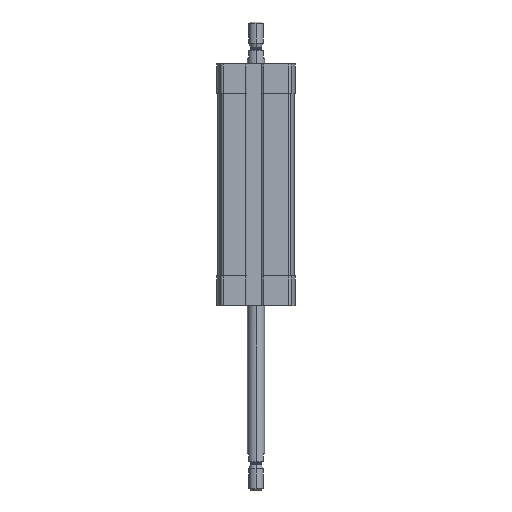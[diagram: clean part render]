
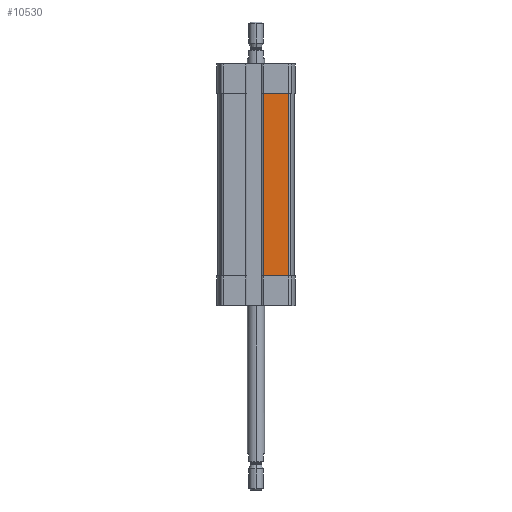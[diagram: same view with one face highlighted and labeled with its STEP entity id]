
A CAD part, left-side view. The second image highlights one B-rep face of the part: STEP entity #10530.
In plain terms, the highlighted planar face has unit normal (-1, 0, 0).
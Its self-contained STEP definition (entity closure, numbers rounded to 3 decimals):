
#314 = DIRECTION ( 'NONE',  ( 0., -1., 0. ) ) ;
#650 = ORIENTED_EDGE ( 'NONE', *, *, #7855, .F. ) ;
#671 = VECTOR ( 'NONE', #3702, 1000. ) ;
#714 = ORIENTED_EDGE ( 'NONE', *, *, #8885, .F. ) ;
#964 = LINE ( 'NONE', #3056, #5619 ) ;
#999 = LINE ( 'NONE', #8153, #671 ) ;
#1018 = VECTOR ( 'NONE', #7838, 1000. ) ;
#1091 = EDGE_LOOP ( 'NONE', ( #714, #650, #7681, #7584 ) ) ;
#2515 = CARTESIAN_POINT ( 'NONE',  ( -13.5, -11.329, -74.5 ) ) ;
#2679 = CARTESIAN_POINT ( 'NONE',  ( -13.5, -11.329, -74.5 ) ) ;
#3056 = CARTESIAN_POINT ( 'NONE',  ( -13.5, -2.5, -74.5 ) ) ;
#3482 = DIRECTION ( 'NONE',  ( 0., 0., 1. ) ) ;
#3702 = DIRECTION ( 'NONE',  ( 0., -1., 0. ) ) ;
#3745 = PLANE ( 'NONE',  #5673 ) ;
#3912 = VECTOR ( 'NONE', #3482, 1000. ) ;
#3993 = VERTEX_POINT ( 'NONE', #11527 ) ;
#4530 = FACE_OUTER_BOUND ( 'NONE', #1091, .T. ) ;
#5483 = DIRECTION ( 'NONE',  ( -1., 0., 0. ) ) ;
#5619 = VECTOR ( 'NONE', #314, 1000. ) ;
#5629 = VERTEX_POINT ( 'NONE', #10998 ) ;
#5673 = AXIS2_PLACEMENT_3D ( 'NONE', #10104, #5483, #7368 ) ;
#6320 = VERTEX_POINT ( 'NONE', #8977 ) ;
#6948 = CARTESIAN_POINT ( 'NONE',  ( -13.5, -2.5, -74.5 ) ) ;
#7209 = EDGE_CURVE ( 'NONE', #5629, #8903, #964, .T. ) ;
#7368 = DIRECTION ( 'NONE',  ( 0., 0., 1. ) ) ;
#7584 = ORIENTED_EDGE ( 'NONE', *, *, #8359, .T. ) ;
#7681 = ORIENTED_EDGE ( 'NONE', *, *, #7209, .T. ) ;
#7838 = DIRECTION ( 'NONE',  ( 0., 0., 1. ) ) ;
#7855 = EDGE_CURVE ( 'NONE', #5629, #3993, #9806, .T. ) ;
#8153 = CARTESIAN_POINT ( 'NONE',  ( -13.5, -2.5, -10.5 ) ) ;
#8359 = EDGE_CURVE ( 'NONE', #8903, #6320, #10686, .T. ) ;
#8885 = EDGE_CURVE ( 'NONE', #3993, #6320, #999, .T. ) ;
#8903 = VERTEX_POINT ( 'NONE', #2679 ) ;
#8977 = CARTESIAN_POINT ( 'NONE',  ( -13.5, -11.329, -10.5 ) ) ;
#9806 = LINE ( 'NONE', #6948, #1018 ) ;
#10104 = CARTESIAN_POINT ( 'NONE',  ( -13.5, -2.5, -74.5 ) ) ;
#10530 = ADVANCED_FACE ( 'NONE', ( #4530 ), #3745, .T. ) ;
#10686 = LINE ( 'NONE', #2515, #3912 ) ;
#10998 = CARTESIAN_POINT ( 'NONE',  ( -13.5, -2.5, -74.5 ) ) ;
#11527 = CARTESIAN_POINT ( 'NONE',  ( -13.5, -2.5, -10.5 ) ) ;
